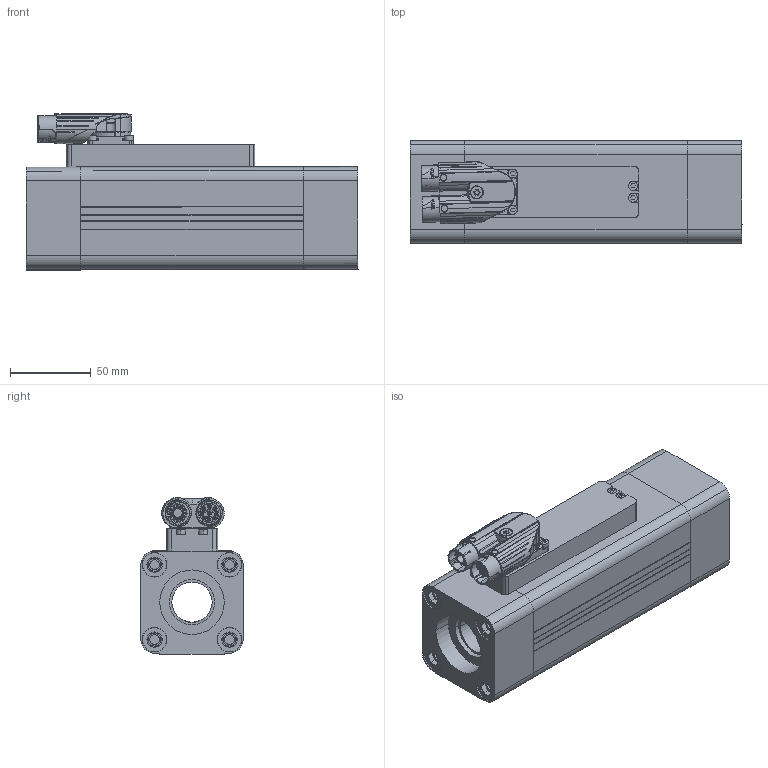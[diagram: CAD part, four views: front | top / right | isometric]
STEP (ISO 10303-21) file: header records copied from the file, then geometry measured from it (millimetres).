
FILE_DESCRIPTION(('STEP AP214'),'1');
FILE_NAME('C:/Users/Autocad/Dropbox/ETT/Drawing/Size 50/Solo corpo/ETT050S01.stp','2014-01-27T08:43:28',(' '),(' '),'Spatial InterOp 3D',' ',' ');
FILE_SCHEMA(('automotive_design'));
Length unit declared in the file: millimetre
Products named in the file (25): ETT050S01; ETH050.1; TAPPO NORMALE; TAPPO; Scatola; Vite M3 lunga; Connettore a y a blocchi; Pin; Vite; Pallino verde; Pallino arancione; Frutto verde; Frutto arancione; Corpo connettore; Vite M3scheda -tappo; cuscinetto; viti parker; riempitivo
Assembly tree (34 placements, depth 3):
  ETT050S01
    ETH050.1
    TAPPO NORMALE
    TAPPO
    Scatola
    Vite M3 lunga  x4
    Connettore a y a blocchi
      Pin
      Vite
      Pallino verde
      Pallino arancione
      Frutto verde
      Frutto arancione
      Corpo connettore
    Vite M3scheda -tappo  x4
    cuscinetto  x2
    viti parker
    viti parker
    viti parker
    viti parker
    viti parker
    viti parker
    viti parker
    viti parker
    riempitivo  x4
Bounding box: 206.04 x 63.51 x 97.01 mm (x, y, z)
Volume: 576045.9 mm3; surface area: 207607.1 mm2
Topology: 26 solids, 1854 shells, 2442 faces, 10088 edges, 9540 vertices
Faces by surface type: cylinder 997, plane 687, bspline 284, torus 262, cone 97, extrusion 68, sphere 47
Entity records: 158970 total; most frequent: CARTESIAN_POINT 59077, DIRECTION 14200, ORIENTED_EDGE 10003, EDGE_CURVE 9190, VERTEX_POINT 8920, AXIS2_PLACEMENT_3D 5430, STYLED_ITEM 3458, PRESENTATION_STYLE_ASSIGNMENT 3458
